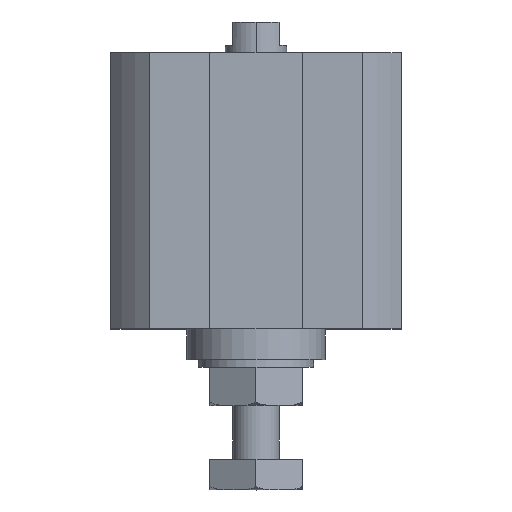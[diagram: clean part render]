
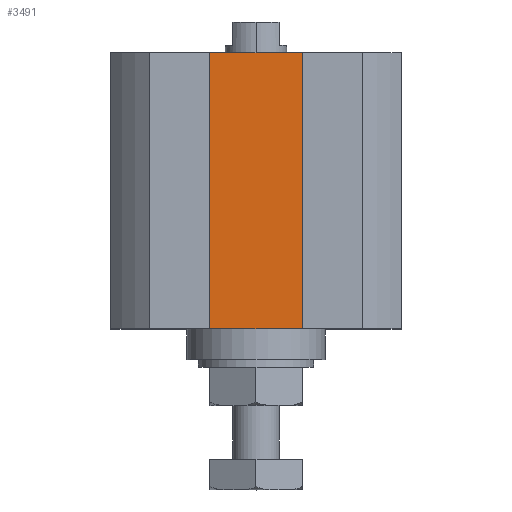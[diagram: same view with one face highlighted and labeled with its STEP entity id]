
A CAD part, top view. The second image highlights one B-rep face of the part: STEP entity #3491.
In plain terms, the highlighted planar face has unit normal (0, 0, 1).
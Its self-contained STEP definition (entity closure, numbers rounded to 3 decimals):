
#26 = DIRECTION ( 'NONE',  ( 0., 0., 1. ) ) ;
#154 = EDGE_CURVE ( 'NONE', #1593, #2031, #1439, .T. ) ;
#213 = EDGE_CURVE ( 'NONE', #3815, #1634, #2361, .T. ) ;
#269 = DIRECTION ( 'NONE',  ( 1., 0., 0. ) ) ;
#483 = CARTESIAN_POINT ( 'NONE',  ( -7.75, 0., 12.75 ) ) ;
#536 = VECTOR ( 'NONE', #1543, 1000. ) ;
#657 = CARTESIAN_POINT ( 'NONE',  ( 0., -36., 12.75 ) ) ;
#816 = CARTESIAN_POINT ( 'NONE',  ( 7.75, -36., 12.75 ) ) ;
#886 = ORIENTED_EDGE ( 'NONE', *, *, #213, .F. ) ;
#893 = CARTESIAN_POINT ( 'NONE',  ( 0., -36., 12.75 ) ) ;
#1033 = ORIENTED_EDGE ( 'NONE', *, *, #2339, .T. ) ;
#1060 = EDGE_LOOP ( 'NONE', ( #886, #1399, #4058, #1033 ) ) ;
#1162 = VECTOR ( 'NONE', #2652, 1000. ) ;
#1200 = AXIS2_PLACEMENT_3D ( 'NONE', #657, #26, #2943 ) ;
#1340 = PLANE ( 'NONE',  #1200 ) ;
#1399 = ORIENTED_EDGE ( 'NONE', *, *, #2990, .F. ) ;
#1439 = LINE ( 'NONE', #893, #2213 ) ;
#1543 = DIRECTION ( 'NONE',  ( 1., 0., 0. ) ) ;
#1593 = VERTEX_POINT ( 'NONE', #3799 ) ;
#1614 = CARTESIAN_POINT ( 'NONE',  ( 7.75, -36., 12.75 ) ) ;
#1634 = VERTEX_POINT ( 'NONE', #2467 ) ;
#1664 = CARTESIAN_POINT ( 'NONE',  ( -7.75, -36., 12.75 ) ) ;
#1774 = VECTOR ( 'NONE', #2574, 1000. ) ;
#2031 = VERTEX_POINT ( 'NONE', #816 ) ;
#2213 = VECTOR ( 'NONE', #269, 1000. ) ;
#2339 = EDGE_CURVE ( 'NONE', #2031, #1634, #2540, .T. ) ;
#2361 = LINE ( 'NONE', #2838, #536 ) ;
#2467 = CARTESIAN_POINT ( 'NONE',  ( 7.75, 0., 12.75 ) ) ;
#2540 = LINE ( 'NONE', #1614, #1774 ) ;
#2574 = DIRECTION ( 'NONE',  ( 0., 1., 0. ) ) ;
#2652 = DIRECTION ( 'NONE',  ( 0., 1., 0. ) ) ;
#2734 = FACE_OUTER_BOUND ( 'NONE', #1060, .T. ) ;
#2838 = CARTESIAN_POINT ( 'NONE',  ( 0., 0., 12.75 ) ) ;
#2897 = LINE ( 'NONE', #1664, #1162 ) ;
#2943 = DIRECTION ( 'NONE',  ( 1., 0., 0. ) ) ;
#2990 = EDGE_CURVE ( 'NONE', #1593, #3815, #2897, .T. ) ;
#3491 = ADVANCED_FACE ( 'NONE', ( #2734 ), #1340, .T. ) ;
#3799 = CARTESIAN_POINT ( 'NONE',  ( -7.75, -36., 12.75 ) ) ;
#3815 = VERTEX_POINT ( 'NONE', #483 ) ;
#4058 = ORIENTED_EDGE ( 'NONE', *, *, #154, .T. ) ;
